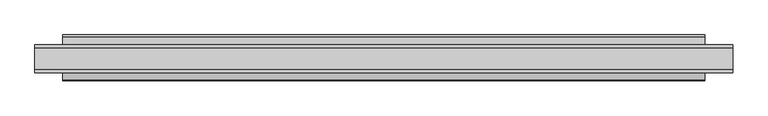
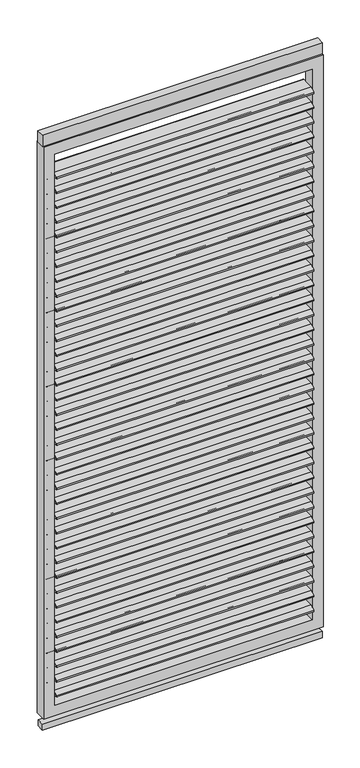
"""IFC4 building model written with IfcOpenShell, lengths in millimetres: proxy geometry, Renson_Camargue_Loggia_Paro_Privacy_Wood : Renson_Camargue_Loggia_Paro_Privacy_Wood."""

from ifc_helpers import new_model, si_unit, point, frame, frame_2d, origin, origin_with_axes, place, context, project, spatial, polyline, circle_curve, trimmed, segment, composite_curve, outline, extrude, source, transform, mapped, element, save


def generic_models_d6fe2a31(model_context):
    return source(origin(), model_context, "Body", "SweptSolid", [
        extrude(outline(composite_curve([segment(trimmed(circle_curve(frame_2d((30.8660408, 2094.5594695)), 3.0), [point((30.8136836, 2097.5590126))], [point((32.5436195, 2092.0723568))], False, "CARTESIAN"), True, "CONTINUOUS"), segment(polyline([(32.5436195, 2092.0723568), (17.3218392, 2081.8051364)]), True, "CONTINUOUS"), segment(trimmed(circle_curve(frame_2d((15.6442605, 2084.2922491)), 3.0), [point((17.3218392, 2081.8051364))], [point((15.6966177, 2081.292706))], False, "CARTESIAN"), True, "CONTINUOUS"), segment(polyline([(15.6966177, 2081.292706), (-28.3625539, 2080.5236503)]), True, "CONTINUOUS"), segment(trimmed(circle_curve(frame_2d((-28.4149111, 2083.5231934)), 3.0), [point((-28.3625539, 2080.5236503))], [point((-30.0924898, 2086.0103061))], False, "CARTESIAN"), True, "CONTINUOUS"), segment(polyline([(-30.0924898, 2086.0103061), (-14.1339931, 2096.774448), (30.8136836, 2097.5590126)]), True, "CONTINUOUS")], self_intersect=False)), frame((-460.0, 0.0, 0.0), z_axis=(1.0, 0.0, 0.0), x_axis=(0.0, 1.0, 0.0)), (0.0, 0.0, 1.0), 920.0),
        extrude(outline(composite_curve([segment(trimmed(circle_curve(frame_2d((30.8660408, 2038.5874713)), 3.0), [point((30.8136836, 2041.5870144))], [point((32.5436195, 2036.1003586))], False, "CARTESIAN"), True, "CONTINUOUS"), segment(polyline([(32.5436195, 2036.1003586), (17.3218392, 2025.8331381)]), True, "CONTINUOUS"), segment(trimmed(circle_curve(frame_2d((15.6442605, 2028.3202508)), 3.0), [point((17.3218392, 2025.8331381))], [point((15.6966177, 2025.3207077))], False, "CARTESIAN"), True, "CONTINUOUS"), segment(polyline([(15.6966177, 2025.3207077), (-28.3625539, 2024.551652)]), True, "CONTINUOUS"), segment(trimmed(circle_curve(frame_2d((-28.4149111, 2027.5511951)), 3.0), [point((-28.3625539, 2024.551652))], [point((-30.0924898, 2030.0383078))], False, "CARTESIAN"), True, "CONTINUOUS"), segment(polyline([(-30.0924898, 2030.0383078), (-14.1339931, 2040.8024497), (30.8136836, 2041.5870144)]), True, "CONTINUOUS")], self_intersect=False)), frame((-460.0, 0.0, 0.0), z_axis=(1.0, 0.0, 0.0), x_axis=(0.0, 1.0, 0.0)), (0.0, 0.0, 1.0), 920.0),
        extrude(outline(composite_curve([segment(trimmed(circle_curve(frame_2d((30.8660408, 1982.615473)), 3.0), [point((30.8136836, 1985.6150161))], [point((32.5436195, 1980.1283603))], False, "CARTESIAN"), True, "CONTINUOUS"), segment(polyline([(32.5436195, 1980.1283603), (17.3218392, 1969.8611398)]), True, "CONTINUOUS"), segment(trimmed(circle_curve(frame_2d((15.6442605, 1972.3482526)), 3.0), [point((17.3218392, 1969.8611398))], [point((15.6966177, 1969.3487095))], False, "CARTESIAN"), True, "CONTINUOUS"), segment(polyline([(15.6966177, 1969.3487095), (-28.3625539, 1968.5796538)]), True, "CONTINUOUS"), segment(trimmed(circle_curve(frame_2d((-28.4149111, 1971.5791969)), 3.0), [point((-28.3625539, 1968.5796538))], [point((-30.0924898, 1974.0663096))], False, "CARTESIAN"), True, "CONTINUOUS"), segment(polyline([(-30.0924898, 1974.0663096), (-14.1339931, 1984.8304515), (30.8136836, 1985.6150161)]), True, "CONTINUOUS")], self_intersect=False)), frame((-460.0, 0.0, 0.0), z_axis=(1.0, 0.0, 0.0), x_axis=(0.0, 1.0, 0.0)), (0.0, 0.0, 1.0), 920.0),
        extrude(outline(composite_curve([segment(trimmed(circle_curve(frame_2d((30.8660408, 1926.6434747)), 3.0), [point((30.8136836, 1929.6430178))], [point((32.5436195, 1924.156362))], False, "CARTESIAN"), True, "CONTINUOUS"), segment(polyline([(32.5436195, 1924.156362), (17.3218392, 1913.8891416)]), True, "CONTINUOUS"), segment(trimmed(circle_curve(frame_2d((15.6442605, 1916.3762543)), 3.0), [point((17.3218392, 1913.8891416))], [point((15.6966177, 1913.3767112))], False, "CARTESIAN"), True, "CONTINUOUS"), segment(polyline([(15.6966177, 1913.3767112), (-28.3625539, 1912.6076555)]), True, "CONTINUOUS"), segment(trimmed(circle_curve(frame_2d((-28.4149111, 1915.6071986)), 3.0), [point((-28.3625539, 1912.6076555))], [point((-30.0924898, 1918.0943113))], False, "CARTESIAN"), True, "CONTINUOUS"), segment(polyline([(-30.0924898, 1918.0943113), (-14.1339931, 1928.8584532), (30.8136836, 1929.6430178)]), True, "CONTINUOUS")], self_intersect=False)), frame((-460.0, 0.0, 0.0), z_axis=(1.0, 0.0, 0.0), x_axis=(0.0, 1.0, 0.0)), (0.0, 0.0, 1.0), 920.0),
        extrude(outline(composite_curve([segment(trimmed(circle_curve(frame_2d((30.8660408, 1870.6714765)), 3.0), [point((30.8136836, 1873.6710196))], [point((32.5436195, 1868.1843638))], False, "CARTESIAN"), True, "CONTINUOUS"), segment(polyline([(32.5436195, 1868.1843638), (17.3218392, 1857.9171433)]), True, "CONTINUOUS"), segment(trimmed(circle_curve(frame_2d((15.6442605, 1860.404256)), 3.0), [point((17.3218392, 1857.9171433))], [point((15.6966177, 1857.404713))], False, "CARTESIAN"), True, "CONTINUOUS"), segment(polyline([(15.6966177, 1857.404713), (-28.3625539, 1856.6356573)]), True, "CONTINUOUS"), segment(trimmed(circle_curve(frame_2d((-28.4149111, 1859.6352003)), 3.0), [point((-28.3625539, 1856.6356573))], [point((-30.0924898, 1862.1223131))], False, "CARTESIAN"), True, "CONTINUOUS"), segment(polyline([(-30.0924898, 1862.1223131), (-14.1339931, 1872.886455), (30.8136836, 1873.6710196)]), True, "CONTINUOUS")], self_intersect=False)), frame((-460.0, 0.0, 0.0), z_axis=(1.0, 0.0, 0.0), x_axis=(0.0, 1.0, 0.0)), (0.0, 0.0, 1.0), 920.0),
        extrude(outline(composite_curve([segment(trimmed(circle_curve(frame_2d((30.8660408, 1814.6994782)), 3.0), [point((30.8136836, 1817.6990213))], [point((32.5436195, 1812.2123655))], False, "CARTESIAN"), True, "CONTINUOUS"), segment(polyline([(32.5436195, 1812.2123655), (17.3218392, 1801.9451451)]), True, "CONTINUOUS"), segment(trimmed(circle_curve(frame_2d((15.6442605, 1804.4322578)), 3.0), [point((17.3218392, 1801.9451451))], [point((15.6966177, 1801.4327147))], False, "CARTESIAN"), True, "CONTINUOUS"), segment(polyline([(15.6966177, 1801.4327147), (-28.3625539, 1800.663659)]), True, "CONTINUOUS"), segment(trimmed(circle_curve(frame_2d((-28.4149111, 1803.6632021)), 3.0), [point((-28.3625539, 1800.663659))], [point((-30.0924898, 1806.1503148))], False, "CARTESIAN"), True, "CONTINUOUS"), segment(polyline([(-30.0924898, 1806.1503148), (-14.1339931, 1816.9144567), (30.8136836, 1817.6990213)]), True, "CONTINUOUS")], self_intersect=False)), frame((-460.0, 0.0, 0.0), z_axis=(1.0, 0.0, 0.0), x_axis=(0.0, 1.0, 0.0)), (0.0, 0.0, 1.0), 920.0),
        extrude(outline(composite_curve([segment(trimmed(circle_curve(frame_2d((30.8660408, 1758.72748)), 3.0), [point((30.8136836, 1761.727023))], [point((32.5436195, 1756.2403672))], False, "CARTESIAN"), True, "CONTINUOUS"), segment(polyline([(32.5436195, 1756.2403672), (17.3218392, 1745.9731468)]), True, "CONTINUOUS"), segment(trimmed(circle_curve(frame_2d((15.6442605, 1748.4602595)), 3.0), [point((17.3218392, 1745.9731468))], [point((15.6966177, 1745.4607164))], False, "CARTESIAN"), True, "CONTINUOUS"), segment(polyline([(15.6966177, 1745.4607164), (-28.3625539, 1744.6916607)]), True, "CONTINUOUS"), segment(trimmed(circle_curve(frame_2d((-28.4149111, 1747.6912038)), 3.0), [point((-28.3625539, 1744.6916607))], [point((-30.0924898, 1750.1783165))], False, "CARTESIAN"), True, "CONTINUOUS"), segment(polyline([(-30.0924898, 1750.1783165), (-14.1339931, 1760.9424584), (30.8136836, 1761.727023)]), True, "CONTINUOUS")], self_intersect=False)), frame((-460.0, 0.0, 0.0), z_axis=(1.0, 0.0, 0.0), x_axis=(0.0, 1.0, 0.0)), (0.0, 0.0, 1.0), 920.0),
        extrude(outline(composite_curve([segment(trimmed(circle_curve(frame_2d((30.8660408, 1702.7554817)), 3.0), [point((30.8136836, 1705.7550248))], [point((32.5436195, 1700.268369))], False, "CARTESIAN"), True, "CONTINUOUS"), segment(polyline([(32.5436195, 1700.268369), (17.3218392, 1690.0011485)]), True, "CONTINUOUS"), segment(trimmed(circle_curve(frame_2d((15.6442605, 1692.4882613)), 3.0), [point((17.3218392, 1690.0011485))], [point((15.6966177, 1689.4887182))], False, "CARTESIAN"), True, "CONTINUOUS"), segment(polyline([(15.6966177, 1689.4887182), (-28.3625539, 1688.7196625)]), True, "CONTINUOUS"), segment(trimmed(circle_curve(frame_2d((-28.4149111, 1691.7192056)), 3.0), [point((-28.3625539, 1688.7196625))], [point((-30.0924898, 1694.2063183))], False, "CARTESIAN"), True, "CONTINUOUS"), segment(polyline([(-30.0924898, 1694.2063183), (-14.1339931, 1704.9704602), (30.8136836, 1705.7550248)]), True, "CONTINUOUS")], self_intersect=False)), frame((-460.0, 0.0, 0.0), z_axis=(1.0, 0.0, 0.0), x_axis=(0.0, 1.0, 0.0)), (0.0, 0.0, 1.0), 920.0),
        extrude(outline(composite_curve([segment(trimmed(circle_curve(frame_2d((30.8660408, 1646.7834834)), 3.0), [point((30.8136836, 1649.7830265))], [point((32.5436195, 1644.2963707))], False, "CARTESIAN"), True, "CONTINUOUS"), segment(polyline([(32.5436195, 1644.2963707), (17.3218392, 1634.0291503)]), True, "CONTINUOUS"), segment(trimmed(circle_curve(frame_2d((15.6442605, 1636.516263)), 3.0), [point((17.3218392, 1634.0291503))], [point((15.6966177, 1633.5167199))], False, "CARTESIAN"), True, "CONTINUOUS"), segment(polyline([(15.6966177, 1633.5167199), (-28.3625539, 1632.7476642)]), True, "CONTINUOUS"), segment(trimmed(circle_curve(frame_2d((-28.4149111, 1635.7472073)), 3.0), [point((-28.3625539, 1632.7476642))], [point((-30.0924898, 1638.23432))], False, "CARTESIAN"), True, "CONTINUOUS"), segment(polyline([(-30.0924898, 1638.23432), (-14.1339931, 1648.9984619), (30.8136836, 1649.7830265)]), True, "CONTINUOUS")], self_intersect=False)), frame((-460.0, 0.0, 0.0), z_axis=(1.0, 0.0, 0.0), x_axis=(0.0, 1.0, 0.0)), (0.0, 0.0, 1.0), 920.0),
        extrude(outline(composite_curve([segment(trimmed(circle_curve(frame_2d((30.8660408, 1590.8114852)), 3.0), [point((30.8136836, 1593.8110283))], [point((32.5436195, 1588.3243725))], False, "CARTESIAN"), True, "CONTINUOUS"), segment(polyline([(32.5436195, 1588.3243725), (17.3218392, 1578.057152)]), True, "CONTINUOUS"), segment(trimmed(circle_curve(frame_2d((15.6442605, 1580.5442647)), 3.0), [point((17.3218392, 1578.057152))], [point((15.6966177, 1577.5447216))], False, "CARTESIAN"), True, "CONTINUOUS"), segment(polyline([(15.6966177, 1577.5447216), (-28.3625539, 1576.7756659)]), True, "CONTINUOUS"), segment(trimmed(circle_curve(frame_2d((-28.4149111, 1579.775209)), 3.0), [point((-28.3625539, 1576.7756659))], [point((-30.0924898, 1582.2623218))], False, "CARTESIAN"), True, "CONTINUOUS"), segment(polyline([(-30.0924898, 1582.2623218), (-14.1339931, 1593.0264636), (30.8136836, 1593.8110283)]), True, "CONTINUOUS")], self_intersect=False)), frame((-460.0, 0.0, 0.0), z_axis=(1.0, 0.0, 0.0), x_axis=(0.0, 1.0, 0.0)), (0.0, 0.0, 1.0), 920.0),
        extrude(outline(composite_curve([segment(trimmed(circle_curve(frame_2d((30.8660408, 1534.8394869)), 3.0), [point((30.8136836, 1537.83903))], [point((32.5436195, 1532.3523742))], False, "CARTESIAN"), True, "CONTINUOUS"), segment(polyline([(32.5436195, 1532.3523742), (17.3218392, 1522.0851538)]), True, "CONTINUOUS"), segment(trimmed(circle_curve(frame_2d((15.6442605, 1524.5722665)), 3.0), [point((17.3218392, 1522.0851538))], [point((15.6966177, 1521.5727234))], False, "CARTESIAN"), True, "CONTINUOUS"), segment(polyline([(15.6966177, 1521.5727234), (-28.3625539, 1520.8036677)]), True, "CONTINUOUS"), segment(trimmed(circle_curve(frame_2d((-28.4149111, 1523.8032108)), 3.0), [point((-28.3625539, 1520.8036677))], [point((-30.0924898, 1526.2903235))], False, "CARTESIAN"), True, "CONTINUOUS"), segment(polyline([(-30.0924898, 1526.2903235), (-14.1339931, 1537.0544654), (30.8136836, 1537.83903)]), True, "CONTINUOUS")], self_intersect=False)), frame((-460.0, 0.0, 0.0), z_axis=(1.0, 0.0, 0.0), x_axis=(0.0, 1.0, 0.0)), (0.0, 0.0, 1.0), 920.0),
        extrude(outline(composite_curve([segment(trimmed(circle_curve(frame_2d((30.8660408, 1478.8674887)), 3.0), [point((30.8136836, 1481.8670317))], [point((32.5436195, 1476.3803759))], False, "CARTESIAN"), True, "CONTINUOUS"), segment(polyline([(32.5436195, 1476.3803759), (17.3218392, 1466.1131555)]), True, "CONTINUOUS"), segment(trimmed(circle_curve(frame_2d((15.6442605, 1468.6002682)), 3.0), [point((17.3218392, 1466.1131555))], [point((15.6966177, 1465.6007251))], False, "CARTESIAN"), True, "CONTINUOUS"), segment(polyline([(15.6966177, 1465.6007251), (-28.3625539, 1464.8316694)]), True, "CONTINUOUS"), segment(trimmed(circle_curve(frame_2d((-28.4149111, 1467.8312125)), 3.0), [point((-28.3625539, 1464.8316694))], [point((-30.0924898, 1470.3183252))], False, "CARTESIAN"), True, "CONTINUOUS"), segment(polyline([(-30.0924898, 1470.3183252), (-14.1339931, 1481.0824671), (30.8136836, 1481.8670317)]), True, "CONTINUOUS")], self_intersect=False)), frame((-460.0, 0.0, 0.0), z_axis=(1.0, 0.0, 0.0), x_axis=(0.0, 1.0, 0.0)), (0.0, 0.0, 1.0), 920.0),
        extrude(outline(composite_curve([segment(trimmed(circle_curve(frame_2d((30.8660408, 1422.8954904)), 3.0), [point((30.8136836, 1425.8950335))], [point((32.5436195, 1420.4083777))], False, "CARTESIAN"), True, "CONTINUOUS"), segment(polyline([(32.5436195, 1420.4083777), (17.3218392, 1410.1411572)]), True, "CONTINUOUS"), segment(trimmed(circle_curve(frame_2d((15.6442605, 1412.62827)), 3.0), [point((17.3218392, 1410.1411572))], [point((15.6966177, 1409.6287269))], False, "CARTESIAN"), True, "CONTINUOUS"), segment(polyline([(15.6966177, 1409.6287269), (-28.3625539, 1408.8596712)]), True, "CONTINUOUS"), segment(trimmed(circle_curve(frame_2d((-28.4149111, 1411.8592143)), 3.0), [point((-28.3625539, 1408.8596712))], [point((-30.0924898, 1414.346327))], False, "CARTESIAN"), True, "CONTINUOUS"), segment(polyline([(-30.0924898, 1414.346327), (-14.1339931, 1425.1104689), (30.8136836, 1425.8950335)]), True, "CONTINUOUS")], self_intersect=False)), frame((-460.0, 0.0, 0.0), z_axis=(1.0, 0.0, 0.0), x_axis=(0.0, 1.0, 0.0)), (0.0, 0.0, 1.0), 920.0),
        extrude(outline(composite_curve([segment(trimmed(circle_curve(frame_2d((30.8660408, 1366.9234921)), 3.0), [point((30.8136836, 1369.9230352))], [point((32.5436195, 1364.4363794))], False, "CARTESIAN"), True, "CONTINUOUS"), segment(polyline([(32.5436195, 1364.4363794), (17.3218392, 1354.169159)]), True, "CONTINUOUS"), segment(trimmed(circle_curve(frame_2d((15.6442605, 1356.6562717)), 3.0), [point((17.3218392, 1354.169159))], [point((15.6966177, 1353.6567286))], False, "CARTESIAN"), True, "CONTINUOUS"), segment(polyline([(15.6966177, 1353.6567286), (-28.3625539, 1352.8876729)]), True, "CONTINUOUS"), segment(trimmed(circle_curve(frame_2d((-28.4149111, 1355.887216)), 3.0), [point((-28.3625539, 1352.8876729))], [point((-30.0924898, 1358.3743287))], False, "CARTESIAN"), True, "CONTINUOUS"), segment(polyline([(-30.0924898, 1358.3743287), (-14.1339931, 1369.1384706), (30.8136836, 1369.9230352)]), True, "CONTINUOUS")], self_intersect=False)), frame((-460.0, 0.0, 0.0), z_axis=(1.0, 0.0, 0.0), x_axis=(0.0, 1.0, 0.0)), (0.0, 0.0, 1.0), 920.0),
        extrude(outline(composite_curve([segment(trimmed(circle_curve(frame_2d((30.8660408, 1310.9514939)), 3.0), [point((30.8136836, 1313.951037))], [point((32.5436195, 1308.4643812))], False, "CARTESIAN"), True, "CONTINUOUS"), segment(polyline([(32.5436195, 1308.4643812), (17.3218392, 1298.1971607)]), True, "CONTINUOUS"), segment(trimmed(circle_curve(frame_2d((15.6442605, 1300.6842734)), 3.0), [point((17.3218392, 1298.1971607))], [point((15.6966177, 1297.6847303))], False, "CARTESIAN"), True, "CONTINUOUS"), segment(polyline([(15.6966177, 1297.6847303), (-28.3625539, 1296.9156746)]), True, "CONTINUOUS"), segment(trimmed(circle_curve(frame_2d((-28.4149111, 1299.9152177)), 3.0), [point((-28.3625539, 1296.9156746))], [point((-30.0924898, 1302.4023304))], False, "CARTESIAN"), True, "CONTINUOUS"), segment(polyline([(-30.0924898, 1302.4023304), (-14.1339931, 1313.1664723), (30.8136836, 1313.951037)]), True, "CONTINUOUS")], self_intersect=False)), frame((-460.0, 0.0, 0.0), z_axis=(1.0, 0.0, 0.0), x_axis=(0.0, 1.0, 0.0)), (0.0, 0.0, 1.0), 920.0),
        extrude(outline(composite_curve([segment(trimmed(circle_curve(frame_2d((30.8660408, 1254.9794956)), 3.0), [point((30.8136836, 1257.9790387))], [point((32.5436195, 1252.4923829))], False, "CARTESIAN"), True, "CONTINUOUS"), segment(polyline([(32.5436195, 1252.4923829), (17.3218392, 1242.2251625)]), True, "CONTINUOUS"), segment(trimmed(circle_curve(frame_2d((15.6442605, 1244.7122752)), 3.0), [point((17.3218392, 1242.2251625))], [point((15.6966177, 1241.7127321))], False, "CARTESIAN"), True, "CONTINUOUS"), segment(polyline([(15.6966177, 1241.7127321), (-28.3625539, 1240.9436764)]), True, "CONTINUOUS"), segment(trimmed(circle_curve(frame_2d((-28.4149111, 1243.9432195)), 3.0), [point((-28.3625539, 1240.9436764))], [point((-30.0924898, 1246.4303322))], False, "CARTESIAN"), True, "CONTINUOUS"), segment(polyline([(-30.0924898, 1246.4303322), (-14.1339931, 1257.1944741), (30.8136836, 1257.9790387)]), True, "CONTINUOUS")], self_intersect=False)), frame((-460.0, 0.0, 0.0), z_axis=(1.0, 0.0, 0.0), x_axis=(0.0, 1.0, 0.0)), (0.0, 0.0, 1.0), 920.0),
        extrude(outline(composite_curve([segment(trimmed(circle_curve(frame_2d((30.8660408, 1199.0074974)), 3.0), [point((30.8136836, 1202.0070404))], [point((32.5436195, 1196.5203846))], False, "CARTESIAN"), True, "CONTINUOUS"), segment(polyline([(32.5436195, 1196.5203846), (17.3218392, 1186.2531642)]), True, "CONTINUOUS"), segment(trimmed(circle_curve(frame_2d((15.6442605, 1188.7402769)), 3.0), [point((17.3218392, 1186.2531642))], [point((15.6966177, 1185.7407338))], False, "CARTESIAN"), True, "CONTINUOUS"), segment(polyline([(15.6966177, 1185.7407338), (-28.3625539, 1184.9716781)]), True, "CONTINUOUS"), segment(trimmed(circle_curve(frame_2d((-28.4149111, 1187.9712212)), 3.0), [point((-28.3625539, 1184.9716781))], [point((-30.0924898, 1190.4583339))], False, "CARTESIAN"), True, "CONTINUOUS"), segment(polyline([(-30.0924898, 1190.4583339), (-14.1339931, 1201.2224758), (30.8136836, 1202.0070404)]), True, "CONTINUOUS")], self_intersect=False)), frame((-460.0, 0.0, 0.0), z_axis=(1.0, 0.0, 0.0), x_axis=(0.0, 1.0, 0.0)), (0.0, 0.0, 1.0), 920.0),
        extrude(outline(composite_curve([segment(trimmed(circle_curve(frame_2d((30.8660408, 1143.0354991)), 3.0), [point((30.8136836, 1146.0350422))], [point((32.5436195, 1140.5483864))], False, "CARTESIAN"), True, "CONTINUOUS"), segment(polyline([(32.5436195, 1140.5483864), (17.3218392, 1130.2811659)]), True, "CONTINUOUS"), segment(trimmed(circle_curve(frame_2d((15.6442605, 1132.7682786)), 3.0), [point((17.3218392, 1130.2811659))], [point((15.6966177, 1129.7687356))], False, "CARTESIAN"), True, "CONTINUOUS"), segment(polyline([(15.6966177, 1129.7687356), (-28.3625539, 1128.9996799)]), True, "CONTINUOUS"), segment(trimmed(circle_curve(frame_2d((-28.4149111, 1131.9992229)), 3.0), [point((-28.3625539, 1128.9996799))], [point((-30.0924898, 1134.4863357))], False, "CARTESIAN"), True, "CONTINUOUS"), segment(polyline([(-30.0924898, 1134.4863357), (-14.1339931, 1145.2504776), (30.8136836, 1146.0350422)]), True, "CONTINUOUS")], self_intersect=False)), frame((-460.0, 0.0, 0.0), z_axis=(1.0, 0.0, 0.0), x_axis=(0.0, 1.0, 0.0)), (0.0, 0.0, 1.0), 920.0),
        extrude(outline(composite_curve([segment(trimmed(circle_curve(frame_2d((30.8660408, 1087.0635008)), 3.0), [point((30.8136836, 1090.0630439))], [point((32.5436195, 1084.5763881))], False, "CARTESIAN"), True, "CONTINUOUS"), segment(polyline([(32.5436195, 1084.5763881), (17.3218392, 1074.3091677)]), True, "CONTINUOUS"), segment(trimmed(circle_curve(frame_2d((15.6442605, 1076.7962804)), 3.0), [point((17.3218392, 1074.3091677))], [point((15.6966177, 1073.7967373))], False, "CARTESIAN"), True, "CONTINUOUS"), segment(polyline([(15.6966177, 1073.7967373), (-28.3625539, 1073.0276816)]), True, "CONTINUOUS"), segment(trimmed(circle_curve(frame_2d((-28.4149111, 1076.0272247)), 3.0), [point((-28.3625539, 1073.0276816))], [point((-30.0924898, 1078.5143374))], False, "CARTESIAN"), True, "CONTINUOUS"), segment(polyline([(-30.0924898, 1078.5143374), (-14.1339931, 1089.2784793), (30.8136836, 1090.0630439)]), True, "CONTINUOUS")], self_intersect=False)), frame((-460.0, 0.0, 0.0), z_axis=(1.0, 0.0, 0.0), x_axis=(0.0, 1.0, 0.0)), (0.0, 0.0, 1.0), 920.0),
        extrude(outline(composite_curve([segment(trimmed(circle_curve(frame_2d((30.8660408, 1031.0915026)), 3.0), [point((30.8136836, 1034.0910457))], [point((32.5436195, 1028.6043898))], False, "CARTESIAN"), True, "CONTINUOUS"), segment(polyline([(32.5436195, 1028.6043898), (17.3218392, 1018.3371694)]), True, "CONTINUOUS"), segment(trimmed(circle_curve(frame_2d((15.6442605, 1020.8242821)), 3.0), [point((17.3218392, 1018.3371694))], [point((15.6966177, 1017.824739))], False, "CARTESIAN"), True, "CONTINUOUS"), segment(polyline([(15.6966177, 1017.824739), (-28.3625539, 1017.0556833)]), True, "CONTINUOUS"), segment(trimmed(circle_curve(frame_2d((-28.4149111, 1020.0552264)), 3.0), [point((-28.3625539, 1017.0556833))], [point((-30.0924898, 1022.5423391))], False, "CARTESIAN"), True, "CONTINUOUS"), segment(polyline([(-30.0924898, 1022.5423391), (-14.1339931, 1033.306481), (30.8136836, 1034.0910457)]), True, "CONTINUOUS")], self_intersect=False)), frame((-460.0, 0.0, 0.0), z_axis=(1.0, 0.0, 0.0), x_axis=(0.0, 1.0, 0.0)), (0.0, 0.0, 1.0), 920.0),
        extrude(outline(composite_curve([segment(trimmed(circle_curve(frame_2d((30.8660408, 975.1195043)), 3.0), [point((30.8136836, 978.1190474))], [point((32.5436195, 972.6323916))], False, "CARTESIAN"), True, "CONTINUOUS"), segment(polyline([(32.5436195, 972.6323916), (17.3218392, 962.3651711)]), True, "CONTINUOUS"), segment(trimmed(circle_curve(frame_2d((15.6442605, 964.8522839)), 3.0), [point((17.3218392, 962.3651711))], [point((15.6966177, 961.8527408))], False, "CARTESIAN"), True, "CONTINUOUS"), segment(polyline([(15.6966177, 961.8527408), (-28.3625539, 961.0836851)]), True, "CONTINUOUS"), segment(trimmed(circle_curve(frame_2d((-28.4149111, 964.0832282)), 3.0), [point((-28.3625539, 961.0836851))], [point((-30.0924898, 966.5703409))], False, "CARTESIAN"), True, "CONTINUOUS"), segment(polyline([(-30.0924898, 966.5703409), (-14.1339931, 977.3344828), (30.8136836, 978.1190474)]), True, "CONTINUOUS")], self_intersect=False)), frame((-460.0, 0.0, 0.0), z_axis=(1.0, 0.0, 0.0), x_axis=(0.0, 1.0, 0.0)), (0.0, 0.0, 1.0), 920.0),
        extrude(outline(composite_curve([segment(trimmed(circle_curve(frame_2d((30.8660408, 919.147506)), 3.0), [point((30.8136836, 922.1470491))], [point((32.5436195, 916.6603933))], False, "CARTESIAN"), True, "CONTINUOUS"), segment(polyline([(32.5436195, 916.6603933), (17.3218392, 906.3931729)]), True, "CONTINUOUS"), segment(trimmed(circle_curve(frame_2d((15.6442605, 908.8802856)), 3.0), [point((17.3218392, 906.3931729))], [point((15.6966177, 905.8807425))], False, "CARTESIAN"), True, "CONTINUOUS"), segment(polyline([(15.6966177, 905.8807425), (-28.3625539, 905.1116868)]), True, "CONTINUOUS"), segment(trimmed(circle_curve(frame_2d((-28.4149111, 908.1112299)), 3.0), [point((-28.3625539, 905.1116868))], [point((-30.0924898, 910.5983426))], False, "CARTESIAN"), True, "CONTINUOUS"), segment(polyline([(-30.0924898, 910.5983426), (-14.1339931, 921.3624845), (30.8136836, 922.1470491)]), True, "CONTINUOUS")], self_intersect=False)), frame((-460.0, 0.0, 0.0), z_axis=(1.0, 0.0, 0.0), x_axis=(0.0, 1.0, 0.0)), (0.0, 0.0, 1.0), 920.0),
        extrude(outline(composite_curve([segment(trimmed(circle_curve(frame_2d((30.8660408, 863.1755078)), 3.0), [point((30.8136836, 866.1750509))], [point((32.5436195, 860.6883951))], False, "CARTESIAN"), True, "CONTINUOUS"), segment(polyline([(32.5436195, 860.6883951), (17.3218392, 850.4211746)]), True, "CONTINUOUS"), segment(trimmed(circle_curve(frame_2d((15.6442605, 852.9082873)), 3.0), [point((17.3218392, 850.4211746))], [point((15.6966177, 849.9087443))], False, "CARTESIAN"), True, "CONTINUOUS"), segment(polyline([(15.6966177, 849.9087443), (-28.3625539, 849.1396886)]), True, "CONTINUOUS"), segment(trimmed(circle_curve(frame_2d((-28.4149111, 852.1392316)), 3.0), [point((-28.3625539, 849.1396886))], [point((-30.0924898, 854.6263444))], False, "CARTESIAN"), True, "CONTINUOUS"), segment(polyline([(-30.0924898, 854.6263444), (-14.1339931, 865.3904863), (30.8136836, 866.1750509)]), True, "CONTINUOUS")], self_intersect=False)), frame((-460.0, 0.0, 0.0), z_axis=(1.0, 0.0, 0.0), x_axis=(0.0, 1.0, 0.0)), (0.0, 0.0, 1.0), 920.0),
        extrude(outline(composite_curve([segment(trimmed(circle_curve(frame_2d((30.8660408, 807.2035095)), 3.0), [point((30.8136836, 810.2030526))], [point((32.5436195, 804.7163968))], False, "CARTESIAN"), True, "CONTINUOUS"), segment(polyline([(32.5436195, 804.7163968), (17.3218392, 794.4491764)]), True, "CONTINUOUS"), segment(trimmed(circle_curve(frame_2d((15.6442605, 796.9362891)), 3.0), [point((17.3218392, 794.4491764))], [point((15.6966177, 793.936746))], False, "CARTESIAN"), True, "CONTINUOUS"), segment(polyline([(15.6966177, 793.936746), (-28.3625539, 793.1676903)]), True, "CONTINUOUS"), segment(trimmed(circle_curve(frame_2d((-28.4149111, 796.1672334)), 3.0), [point((-28.3625539, 793.1676903))], [point((-30.0924898, 798.6543461))], False, "CARTESIAN"), True, "CONTINUOUS"), segment(polyline([(-30.0924898, 798.6543461), (-14.1339931, 809.418488), (30.8136836, 810.2030526)]), True, "CONTINUOUS")], self_intersect=False)), frame((-460.0, 0.0, 0.0), z_axis=(1.0, 0.0, 0.0), x_axis=(0.0, 1.0, 0.0)), (0.0, 0.0, 1.0), 920.0),
        extrude(outline(composite_curve([segment(trimmed(circle_curve(frame_2d((30.8660408, 751.2315113)), 3.0), [point((30.8136836, 754.2310543))], [point((32.5436195, 748.7443985))], False, "CARTESIAN"), True, "CONTINUOUS"), segment(polyline([(32.5436195, 748.7443985), (17.3218392, 738.4771781)]), True, "CONTINUOUS"), segment(trimmed(circle_curve(frame_2d((15.6442605, 740.9642908)), 3.0), [point((17.3218392, 738.4771781))], [point((15.6966177, 737.9647477))], False, "CARTESIAN"), True, "CONTINUOUS"), segment(polyline([(15.6966177, 737.9647477), (-28.3625539, 737.195692)]), True, "CONTINUOUS"), segment(trimmed(circle_curve(frame_2d((-28.4149111, 740.1952351)), 3.0), [point((-28.3625539, 737.195692))], [point((-30.0924898, 742.6823478))], False, "CARTESIAN"), True, "CONTINUOUS"), segment(polyline([(-30.0924898, 742.6823478), (-14.1339931, 753.4464897), (30.8136836, 754.2310543)]), True, "CONTINUOUS")], self_intersect=False)), frame((-460.0, 0.0, 0.0), z_axis=(1.0, 0.0, 0.0), x_axis=(0.0, 1.0, 0.0)), (0.0, 0.0, 1.0), 920.0),
        extrude(outline(composite_curve([segment(trimmed(circle_curve(frame_2d((30.8660408, 695.259513)), 3.0), [point((30.8136836, 698.2590561))], [point((32.5436195, 692.7724003))], False, "CARTESIAN"), True, "CONTINUOUS"), segment(polyline([(32.5436195, 692.7724003), (17.3218392, 682.5051798)]), True, "CONTINUOUS"), segment(trimmed(circle_curve(frame_2d((15.6442605, 684.9922926)), 3.0), [point((17.3218392, 682.5051798))], [point((15.6966177, 681.9927495))], False, "CARTESIAN"), True, "CONTINUOUS"), segment(polyline([(15.6966177, 681.9927495), (-28.3625539, 681.2236938)]), True, "CONTINUOUS"), segment(trimmed(circle_curve(frame_2d((-28.4149111, 684.2232369)), 3.0), [point((-28.3625539, 681.2236938))], [point((-30.0924898, 686.7103496))], False, "CARTESIAN"), True, "CONTINUOUS"), segment(polyline([(-30.0924898, 686.7103496), (-14.1339931, 697.4744915), (30.8136836, 698.2590561)]), True, "CONTINUOUS")], self_intersect=False)), frame((-460.0, 0.0, 0.0), z_axis=(1.0, 0.0, 0.0), x_axis=(0.0, 1.0, 0.0)), (0.0, 0.0, 1.0), 920.0),
        extrude(outline(composite_curve([segment(trimmed(circle_curve(frame_2d((30.8660408, 639.2875147)), 3.0), [point((30.8136836, 642.2870578))], [point((32.5436195, 636.800402))], False, "CARTESIAN"), True, "CONTINUOUS"), segment(polyline([(32.5436195, 636.800402), (17.3218392, 626.5331816)]), True, "CONTINUOUS"), segment(trimmed(circle_curve(frame_2d((15.6442605, 629.0202943)), 3.0), [point((17.3218392, 626.5331816))], [point((15.6966177, 626.0207512))], False, "CARTESIAN"), True, "CONTINUOUS"), segment(polyline([(15.6966177, 626.0207512), (-28.3625539, 625.2516955)]), True, "CONTINUOUS"), segment(trimmed(circle_curve(frame_2d((-28.4149111, 628.2512386)), 3.0), [point((-28.3625539, 625.2516955))], [point((-30.0924898, 630.7383513))], False, "CARTESIAN"), True, "CONTINUOUS"), segment(polyline([(-30.0924898, 630.7383513), (-14.1339931, 641.5024932), (30.8136836, 642.2870578)]), True, "CONTINUOUS")], self_intersect=False)), frame((-460.0, 0.0, 0.0), z_axis=(1.0, 0.0, 0.0), x_axis=(0.0, 1.0, 0.0)), (0.0, 0.0, 1.0), 920.0),
        extrude(outline(composite_curve([segment(trimmed(circle_curve(frame_2d((30.8660408, 583.3155165)), 3.0), [point((30.8136836, 586.3150596))], [point((32.5436195, 580.8284038))], False, "CARTESIAN"), True, "CONTINUOUS"), segment(polyline([(32.5436195, 580.8284038), (17.3218392, 570.5611833)]), True, "CONTINUOUS"), segment(trimmed(circle_curve(frame_2d((15.6442605, 573.048296)), 3.0), [point((17.3218392, 570.5611833))], [point((15.6966177, 570.0487529))], False, "CARTESIAN"), True, "CONTINUOUS"), segment(polyline([(15.6966177, 570.0487529), (-28.3625539, 569.2796972)]), True, "CONTINUOUS"), segment(trimmed(circle_curve(frame_2d((-28.4149111, 572.2792403)), 3.0), [point((-28.3625539, 569.2796972))], [point((-30.0924898, 574.766353))], False, "CARTESIAN"), True, "CONTINUOUS"), segment(polyline([(-30.0924898, 574.766353), (-14.1339931, 585.5304949), (30.8136836, 586.3150596)]), True, "CONTINUOUS")], self_intersect=False)), frame((-460.0, 0.0, 0.0), z_axis=(1.0, 0.0, 0.0), x_axis=(0.0, 1.0, 0.0)), (0.0, 0.0, 1.0), 920.0),
        extrude(outline(composite_curve([segment(trimmed(circle_curve(frame_2d((30.8660408, 527.3435182)), 3.0), [point((30.8136836, 530.3430613))], [point((32.5436195, 524.8564055))], False, "CARTESIAN"), True, "CONTINUOUS"), segment(polyline([(32.5436195, 524.8564055), (17.3218392, 514.5891851)]), True, "CONTINUOUS"), segment(trimmed(circle_curve(frame_2d((15.6442605, 517.0762978)), 3.0), [point((17.3218392, 514.5891851))], [point((15.6966177, 514.0767547))], False, "CARTESIAN"), True, "CONTINUOUS"), segment(polyline([(15.6966177, 514.0767547), (-28.3625539, 513.307699)]), True, "CONTINUOUS"), segment(trimmed(circle_curve(frame_2d((-28.4149111, 516.3072421)), 3.0), [point((-28.3625539, 513.307699))], [point((-30.0924898, 518.7943548))], False, "CARTESIAN"), True, "CONTINUOUS"), segment(polyline([(-30.0924898, 518.7943548), (-14.1339931, 529.5584967), (30.8136836, 530.3430613)]), True, "CONTINUOUS")], self_intersect=False)), frame((-460.0, 0.0, 0.0), z_axis=(1.0, 0.0, 0.0), x_axis=(0.0, 1.0, 0.0)), (0.0, 0.0, 1.0), 920.0),
        extrude(outline(composite_curve([segment(trimmed(circle_curve(frame_2d((30.8660408, 471.37152)), 3.0), [point((30.8136836, 474.371063))], [point((32.5436195, 468.8844072))], False, "CARTESIAN"), True, "CONTINUOUS"), segment(polyline([(32.5436195, 468.8844072), (17.3218392, 458.6171868)]), True, "CONTINUOUS"), segment(trimmed(circle_curve(frame_2d((15.6442605, 461.1042995)), 3.0), [point((17.3218392, 458.6171868))], [point((15.6966177, 458.1047564))], False, "CARTESIAN"), True, "CONTINUOUS"), segment(polyline([(15.6966177, 458.1047564), (-28.3625539, 457.3357007)]), True, "CONTINUOUS"), segment(trimmed(circle_curve(frame_2d((-28.4149111, 460.3352438)), 3.0), [point((-28.3625539, 457.3357007))], [point((-30.0924898, 462.8223565))], False, "CARTESIAN"), True, "CONTINUOUS"), segment(polyline([(-30.0924898, 462.8223565), (-14.1339931, 473.5864984), (30.8136836, 474.371063)]), True, "CONTINUOUS")], self_intersect=False)), frame((-460.0, 0.0, 0.0), z_axis=(1.0, 0.0, 0.0), x_axis=(0.0, 1.0, 0.0)), (0.0, 0.0, 1.0), 920.0),
        extrude(outline(composite_curve([segment(trimmed(circle_curve(frame_2d((30.8660408, 415.3995217)), 3.0), [point((30.8136836, 418.3990648))], [point((32.5436195, 412.912409))], False, "CARTESIAN"), True, "CONTINUOUS"), segment(polyline([(32.5436195, 412.912409), (17.3218392, 402.6451885)]), True, "CONTINUOUS"), segment(trimmed(circle_curve(frame_2d((15.6442605, 405.1323012)), 3.0), [point((17.3218392, 402.6451885))], [point((15.6966177, 402.1327582))], False, "CARTESIAN"), True, "CONTINUOUS"), segment(polyline([(15.6966177, 402.1327582), (-28.3625539, 401.3637025)]), True, "CONTINUOUS"), segment(trimmed(circle_curve(frame_2d((-28.4149111, 404.3632455)), 3.0), [point((-28.3625539, 401.3637025))], [point((-30.0924898, 406.8503583))], False, "CARTESIAN"), True, "CONTINUOUS"), segment(polyline([(-30.0924898, 406.8503583), (-14.1339931, 417.6145002), (30.8136836, 418.3990648)]), True, "CONTINUOUS")], self_intersect=False)), frame((-460.0, 0.0, 0.0), z_axis=(1.0, 0.0, 0.0), x_axis=(0.0, 1.0, 0.0)), (0.0, 0.0, 1.0), 920.0),
        extrude(outline(composite_curve([segment(trimmed(circle_curve(frame_2d((30.8660408, 359.4275234)), 3.0), [point((30.8136836, 362.4270665))], [point((32.5436195, 356.9404107))], False, "CARTESIAN"), True, "CONTINUOUS"), segment(polyline([(32.5436195, 356.9404107), (17.3218392, 346.6731903)]), True, "CONTINUOUS"), segment(trimmed(circle_curve(frame_2d((15.6442605, 349.160303)), 3.0), [point((17.3218392, 346.6731903))], [point((15.6966177, 346.1607599))], False, "CARTESIAN"), True, "CONTINUOUS"), segment(polyline([(15.6966177, 346.1607599), (-28.3625539, 345.3917042)]), True, "CONTINUOUS"), segment(trimmed(circle_curve(frame_2d((-28.4149111, 348.3912473)), 3.0), [point((-28.3625539, 345.3917042))], [point((-30.0924898, 350.87836))], False, "CARTESIAN"), True, "CONTINUOUS"), segment(polyline([(-30.0924898, 350.87836), (-14.1339931, 361.6425019), (30.8136836, 362.4270665)]), True, "CONTINUOUS")], self_intersect=False)), frame((-460.0, 0.0, 0.0), z_axis=(1.0, 0.0, 0.0), x_axis=(0.0, 1.0, 0.0)), (0.0, 0.0, 1.0), 920.0),
        extrude(outline(composite_curve([segment(trimmed(circle_curve(frame_2d((30.8660408, 303.4555252)), 3.0), [point((30.8136836, 306.4550683))], [point((32.5436195, 300.9684125))], False, "CARTESIAN"), True, "CONTINUOUS"), segment(polyline([(32.5436195, 300.9684125), (17.3218392, 290.701192)]), True, "CONTINUOUS"), segment(trimmed(circle_curve(frame_2d((15.6442605, 293.1883047)), 3.0), [point((17.3218392, 290.701192))], [point((15.6966177, 290.1887616))], False, "CARTESIAN"), True, "CONTINUOUS"), segment(polyline([(15.6966177, 290.1887616), (-28.3625539, 289.4197059)]), True, "CONTINUOUS"), segment(trimmed(circle_curve(frame_2d((-28.4149111, 292.419249)), 3.0), [point((-28.3625539, 289.4197059))], [point((-30.0924898, 294.9063617))], False, "CARTESIAN"), True, "CONTINUOUS"), segment(polyline([(-30.0924898, 294.9063617), (-14.1339931, 305.6705036), (30.8136836, 306.4550683)]), True, "CONTINUOUS")], self_intersect=False)), frame((-460.0, 0.0, 0.0), z_axis=(1.0, 0.0, 0.0), x_axis=(0.0, 1.0, 0.0)), (0.0, 0.0, 1.0), 920.0),
        extrude(outline(composite_curve([segment(trimmed(circle_curve(frame_2d((30.8660408, 247.4835269)), 3.0), [point((30.8136836, 250.48307))], [point((32.5436195, 244.9964142))], False, "CARTESIAN"), True, "CONTINUOUS"), segment(polyline([(32.5436195, 244.9964142), (17.3218392, 234.7291937)]), True, "CONTINUOUS"), segment(trimmed(circle_curve(frame_2d((15.6442605, 237.2163065)), 3.0), [point((17.3218392, 234.7291937))], [point((15.6966177, 234.2167634))], False, "CARTESIAN"), True, "CONTINUOUS"), segment(polyline([(15.6966177, 234.2167634), (-28.3625539, 233.4477077)]), True, "CONTINUOUS"), segment(trimmed(circle_curve(frame_2d((-28.4149111, 236.4472508)), 3.0), [point((-28.3625539, 233.4477077))], [point((-30.0924898, 238.9343635))], False, "CARTESIAN"), True, "CONTINUOUS"), segment(polyline([(-30.0924898, 238.9343635), (-14.1339931, 249.6985054), (30.8136836, 250.48307)]), True, "CONTINUOUS")], self_intersect=False)), frame((-460.0, 0.0, 0.0), z_axis=(1.0, 0.0, 0.0), x_axis=(0.0, 1.0, 0.0)), (0.0, 0.0, 1.0), 920.0),
        extrude(outline(composite_curve([segment(trimmed(circle_curve(frame_2d((30.8660408, 191.5115286)), 3.0), [point((30.8136836, 194.5110717))], [point((32.5436195, 189.0244159))], False, "CARTESIAN"), True, "CONTINUOUS"), segment(polyline([(32.5436195, 189.0244159), (17.3218392, 178.7571955)]), True, "CONTINUOUS"), segment(trimmed(circle_curve(frame_2d((15.6442605, 181.2443082)), 3.0), [point((17.3218392, 178.7571955))], [point((15.6966177, 178.2447651))], False, "CARTESIAN"), True, "CONTINUOUS"), segment(polyline([(15.6966177, 178.2447651), (-28.3625539, 177.4757094)]), True, "CONTINUOUS"), segment(trimmed(circle_curve(frame_2d((-28.4149111, 180.4752525)), 3.0), [point((-28.3625539, 177.4757094))], [point((-30.0924898, 182.9623652))], False, "CARTESIAN"), True, "CONTINUOUS"), segment(polyline([(-30.0924898, 182.9623652), (-14.1339931, 193.7265071), (30.8136836, 194.5110717)]), True, "CONTINUOUS")], self_intersect=False)), frame((-460.0, 0.0, 0.0), z_axis=(1.0, 0.0, 0.0), x_axis=(0.0, 1.0, 0.0)), (0.0, 0.0, 1.0), 920.0),
        extrude(outline(composite_curve([segment(trimmed(circle_curve(frame_2d((30.8660408, 135.5395304)), 3.0), [point((30.8136836, 138.5390735))], [point((32.5436195, 133.0524177))], False, "CARTESIAN"), True, "CONTINUOUS"), segment(polyline([(32.5436195, 133.0524177), (17.3218392, 122.7851972)]), True, "CONTINUOUS"), segment(trimmed(circle_curve(frame_2d((15.6442605, 125.2723099)), 3.0), [point((17.3218392, 122.7851972))], [point((15.6966177, 122.2727669))], False, "CARTESIAN"), True, "CONTINUOUS"), segment(polyline([(15.6966177, 122.2727669), (-28.3625539, 121.5037112)]), True, "CONTINUOUS"), segment(trimmed(circle_curve(frame_2d((-28.4149111, 124.5032542)), 3.0), [point((-28.3625539, 121.5037112))], [point((-30.0924898, 126.990367))], False, "CARTESIAN"), True, "CONTINUOUS"), segment(polyline([(-30.0924898, 126.990367), (-14.1339931, 137.7545089), (30.8136836, 138.5390735)]), True, "CONTINUOUS")], self_intersect=False)), frame((-460.0, 0.0, 0.0), z_axis=(1.0, 0.0, 0.0), x_axis=(0.0, 1.0, 0.0)), (0.0, 0.0, 1.0), 920.0),
        extrude(outline(polyline([(500.0, 15.0), (500.0, -15.0), (-500.0, -15.0), (-500.0, 15.0), (500.0, 15.0)])), frame((0.0, 0.0, 2207.7138321), z_axis=(0.0, 0.0, 1.0), x_axis=(1.0, 0.0, 0.0)), (0.0, 0.0, 1.0), 42.2861679),
        extrude(outline(polyline([(500.0, 15.0), (500.0, -15.0), (-500.0, -15.0), (-500.0, 15.0), (500.0, 15.0)])), frame((0.0, 0.0, 2207.7138321), z_axis=(0.0, 0.0, 1.0), x_axis=(1.0, 0.0, 0.0)), (0.0, 0.0, 1.0), 42.2861679),
        extrude(outline(polyline([(500.0, -13.0), (-500.0, -13.0), (-500.0, 14.0), (500.0, 14.0), (500.0, -13.0)])), origin_with_axes(), (0.0, 0.0, 1.0), 23.0),
        extrude(outline(polyline([(500.0, -13.0), (-500.0, -13.0), (-500.0, 14.0), (500.0, 14.0), (500.0, -13.0)])), origin_with_axes(), (0.0, 0.0, 1.0), 23.0),
        extrude(outline(polyline([(2207.7138321, -500.0), (45.0, -500.0), (45.0, 500.0), (2207.7138321, 500.0), (2207.7138321, -500.0)]), holes=[polyline([(2167.7138321, 460.0), (85.0, 460.0), (85.0, -460.0), (2167.7138321, -460.0), (2167.7138321, 460.0)])]), frame((0.0, -20.0, 0.0), z_axis=(0.0, 1.0, 0.0), x_axis=(0.0, 0.0, 1.0)), (0.0, 0.0, 1.0), 40.0),
    ])


if __name__ == "__main__":
    model = new_model("IFC4")
    model_context = context("Model", 3, world=origin())
    ifc_project = project(units=[si_unit("LENGTHUNIT", "METRE", prefix="MILLI")], contexts=[model_context])
    site = spatial("IfcSite", under=ifc_project)
    building = spatial("IfcBuilding", under=site)
    placement = place(None, origin())
    generic_models_shape = generic_models_d6fe2a31(model_context)
    element("IfcBuildingElementProxy", 1, Name="Renson_Camargue_Loggia_Paro_Privacy_Wood : Renson_Camargue_Loggia_Paro_Privacy_Wood", ObjectType="Renson_Camargue_Loggia_Paro_Privacy_Wood : Renson_Camargue_Loggia_Paro_Privacy_Wood", at=placement, inside=building, context=model_context, shape_type="MappedRepresentation", body=[
        mapped(generic_models_shape, transform((0.0, 0.0, 0.0), x_axis=(1.0, 0.0, 0.0), y_axis=(0.0, 1.0, 0.0), z_axis=(0.0, 0.0, 1.0))),
    ])
    save(model, "model.ifc")
